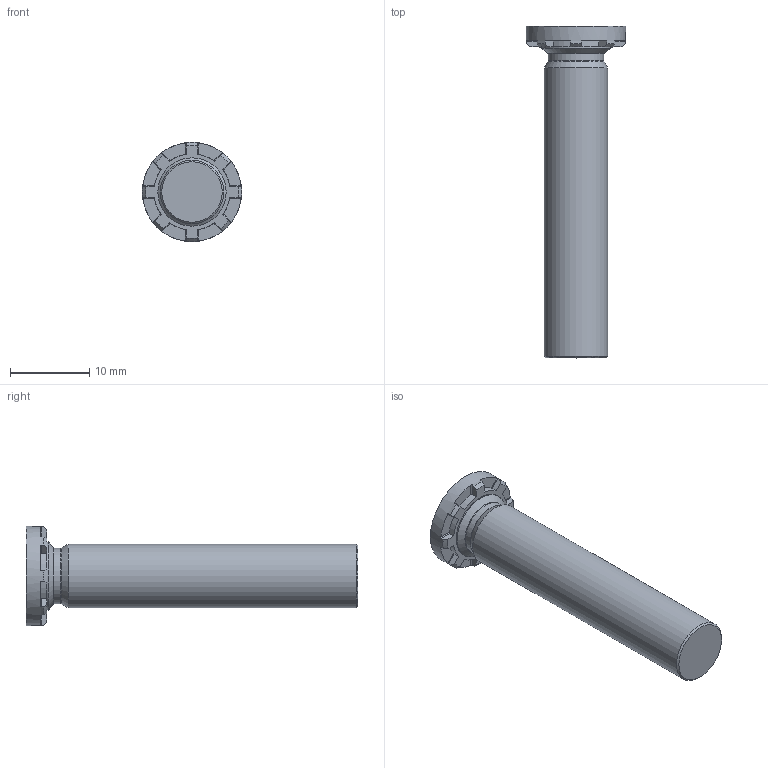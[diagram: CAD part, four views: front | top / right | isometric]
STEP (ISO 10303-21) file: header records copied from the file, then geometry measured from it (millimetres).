
FILE_DESCRIPTION(/* description */ (''),/* implementation_level */ '2;1');
FILE_NAME(/* name */ 'C:\Users\keval.kumar\Desktop\Fastit\Clinch Screw- HFH Range\M8\Clinch Screw-HFH Range_M8x40.stp',/* time_stamp */ '2024-03-12T15:20:59+06:00',/* author */ ('keval.kumar'),/* organization */ (''),/* preprocessor_version */ 'ST-DEVELOPER v18.1',/* originating_system */ 'Autodesk Inventor 2022',/* authorisation */ '');
FILE_SCHEMA (('AUTOMOTIVE_DESIGN { 1 0 10303 214 3 1 1 }'));
Length unit declared in the file: millimetre
Products named in the file (1): Clinch Screw-HFH Range_M8x40
Bounding box: 12.5 x 41.78 x 12.5 mm (x, y, z)
Volume: 2244.1 mm3; surface area: 1336.2 mm2
Topology: 1 solids, 1 shells, 68 faces, 193 edges, 128 vertices
Faces by surface type: plane 43, cylinder 12, cone 11, torus 2
Full cylindrical faces by diameter (mm): 7 x1, 8 x1, 8.6 x1, 12.5 x1
Entity records: 2278 total; most frequent: CARTESIAN_POINT 422, DIRECTION 405, ORIENTED_EDGE 386, EDGE_CURVE 193, AXIS2_PLACEMENT_3D 159, VERTEX_POINT 128, LINE 87, VECTOR 87
